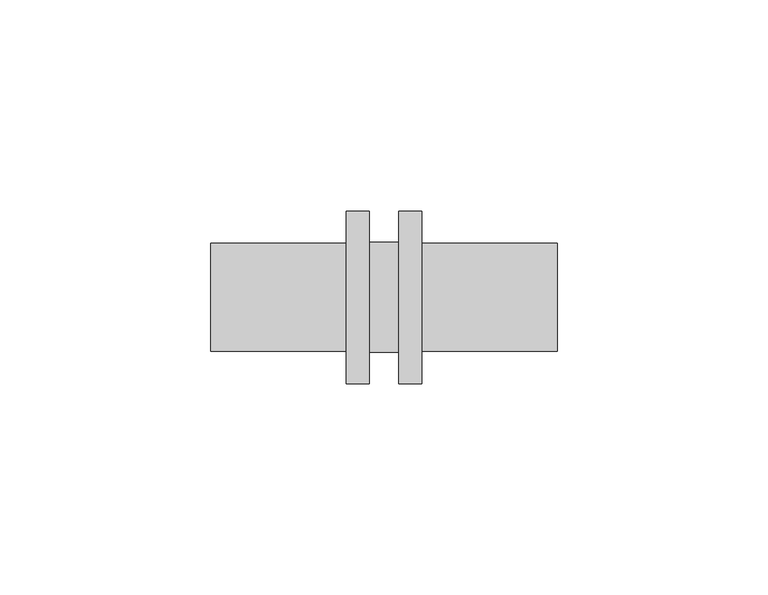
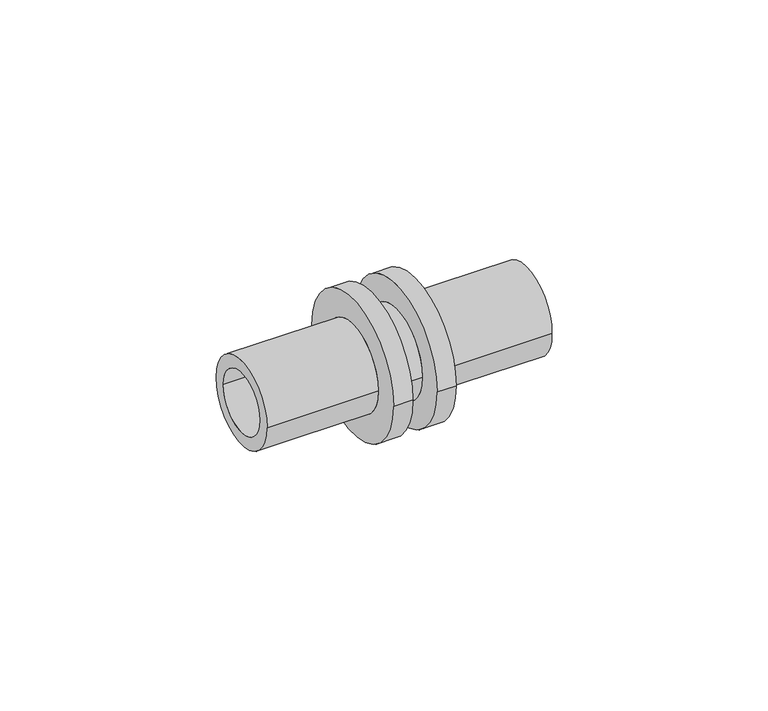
"""IFC4 building model written with IfcOpenShell, lengths in millimetres: pipe fitting geometry, RAUTITAN_Union_PX : RTI PX U DE."""

from ifc_helpers import new_model, si_unit, frame, origin, place, context, project, spatial, polyline, circle_curve, source, transform, mapped, element, save
from ifc_brep_helpers import plane_surface, cylinder_surface, revolved_surface, advanced_brep


def pipe_fitting_1e73dd1d(model_context):
    return source(origin(), model_context, "Body", "AdvancedBrep", [
        advanced_brep(
        [(-41.0, 9.05, 0.0), (-41.0, -9.05, 0.0), (41.0, -9.05, 0.0), (41.0, 9.05, 0.0), (-9.0, 12.75, 0.0), (-9.0, -12.75, 0.0), (-41.0, -12.75, 0.0), (-41.0, 12.75, 0.0), (-3.5, 20.45, 0.0), (-3.5, -20.45, 0.0), (-9.0, -20.45, 0.0), (-9.0, 20.45, 0.0), (3.5, 13.05, 0.0), (3.5, -13.05, 0.0), (-3.5, -13.05, 0.0), (-3.5, 13.05, 0.0), (9.0, 20.45, 0.0), (9.0, -20.45, 0.0), (3.5, -20.45, 0.0), (3.5, 20.45, 0.0), (41.0, 12.75, 0.0), (41.0, -12.75, 0.0), (9.0, -12.75, 0.0), (9.0, 12.75, 0.0)],
        [
            (0, 1, circle_curve(frame((-41.0, 0.0, 0.0), z_axis=(-1.0, 0.0, 0.0), x_axis=(0.0, -1.0, 0.0)), 9.05)),
            (1, 2),
            (2, 3, circle_curve(frame((41.0, 0.0, 0.0), z_axis=(1.0, 0.0, 0.0), x_axis=(0.0, -1.0, 0.0)), 9.05)),
            (3, 0),
            (4, 5, circle_curve(frame((-9.0, 0.0, 0.0), z_axis=(-1.0, 0.0, 0.0), x_axis=(0.0, -1.0, 0.0)), 12.75)),
            (5, 6),
            (6, 7, circle_curve(frame((-41.0, 0.0, 0.0), z_axis=(1.0, 0.0, 0.0), x_axis=(0.0, -1.0, 0.0)), 12.75)),
            (7, 4),
            (8, 9, circle_curve(frame((-3.5, 0.0, 0.0), z_axis=(-1.0, 0.0, 0.0), x_axis=(0.0, -1.0, 0.0)), 20.45)),
            (9, 10),
            (10, 11, circle_curve(frame((-9.0, 0.0, 0.0), z_axis=(1.0, 0.0, 0.0), x_axis=(0.0, -1.0, 0.0)), 20.45)),
            (11, 8),
            (12, 13, circle_curve(frame((3.5, 0.0, 0.0), z_axis=(-1.0, 0.0, 0.0), x_axis=(0.0, -1.0, 0.0)), 13.05)),
            (13, 14),
            (14, 15, circle_curve(frame((-3.5, 0.0, 0.0), z_axis=(1.0, 0.0, 0.0), x_axis=(0.0, -1.0, 0.0)), 13.05)),
            (15, 12),
            (16, 17, circle_curve(frame((9.0, 0.0, 0.0), z_axis=(-1.0, 0.0, 0.0), x_axis=(0.0, -1.0, 0.0)), 20.45)),
            (17, 18),
            (18, 19, circle_curve(frame((3.5, 0.0, 0.0), z_axis=(1.0, 0.0, 0.0), x_axis=(0.0, -1.0, 0.0)), 20.45)),
            (19, 16),
            (20, 21, circle_curve(frame((41.0, 0.0, 0.0), z_axis=(-1.0, 0.0, 0.0), x_axis=(0.0, -1.0, 0.0)), 12.75)),
            (21, 22),
            (22, 23, circle_curve(frame((9.0, 0.0, 0.0), z_axis=(1.0, 0.0, 0.0), x_axis=(0.0, -1.0, 0.0)), 12.75)),
            (23, 20),
            (1, 0, circle_curve(frame((-41.0, 0.0, 0.0), z_axis=(-1.0, 0.0, 0.0), x_axis=(0.0, 1.0, 0.0)), 9.05)),
            (3, 2, circle_curve(frame((41.0, 0.0, 0.0), z_axis=(1.0, 0.0, 0.0), x_axis=(0.0, 1.0, 0.0)), 9.05)),
            (6, 7, circle_curve(frame((-41.0, 0.0, 0.0), z_axis=(-1.0, 0.0, 0.0), x_axis=(0.0, 1.0, 0.0)), 12.75)),
            (5, 4, circle_curve(frame((-9.0, 0.0, 0.0), z_axis=(-1.0, 0.0, 0.0), x_axis=(0.0, 1.0, 0.0)), 12.75)),
            (10, 11, circle_curve(frame((-9.0, 0.0, 0.0), z_axis=(-1.0, 0.0, 0.0), x_axis=(0.0, 1.0, 0.0)), 20.45)),
            (9, 8, circle_curve(frame((-3.5, 0.0, 0.0), z_axis=(-1.0, 0.0, 0.0), x_axis=(0.0, 1.0, 0.0)), 20.45)),
            (14, 15, circle_curve(frame((-3.5, 0.0, 0.0), z_axis=(-1.0, 0.0, 0.0), x_axis=(0.0, 1.0, 0.0)), 13.05)),
            (13, 12, circle_curve(frame((3.5, 0.0, 0.0), z_axis=(-1.0, 0.0, 0.0), x_axis=(0.0, 1.0, 0.0)), 13.05)),
            (18, 19, circle_curve(frame((3.5, 0.0, 0.0), z_axis=(-1.0, 0.0, 0.0), x_axis=(0.0, 1.0, 0.0)), 20.45)),
            (17, 16, circle_curve(frame((9.0, 0.0, 0.0), z_axis=(-1.0, 0.0, 0.0), x_axis=(0.0, 1.0, 0.0)), 20.45)),
            (22, 23, circle_curve(frame((9.0, 0.0, 0.0), z_axis=(-1.0, 0.0, 0.0), x_axis=(0.0, 1.0, 0.0)), 12.75)),
            (21, 20, circle_curve(frame((41.0, 0.0, 0.0), z_axis=(-1.0, 0.0, 0.0), x_axis=(0.0, 1.0, 0.0)), 12.75)),
        ],
        [
            revolved_surface(polyline([(41.0, -9.05, 0.0), (-41.0, -9.05, 0.0)]), (0.0, 0.0, 0.0), (1.0, 0.0, 0.0)),
            cylinder_surface(frame((0.0, 0.0, 0.0), z_axis=(1.0, 0.0, 0.0), x_axis=(0.0, -1.0, 0.0)), 12.75),
            cylinder_surface(frame((0.0, 0.0, 0.0), z_axis=(1.0, 0.0, 0.0), x_axis=(0.0, -1.0, 0.0)), 20.45),
            cylinder_surface(frame((0.0, 0.0, 0.0), z_axis=(1.0, 0.0, 0.0), x_axis=(0.0, -1.0, 0.0)), 13.05),
            revolved_surface(polyline([(41.0, 9.05, 0.0), (-41.0, 9.05, 0.0)]), (0.0, 0.0, 0.0), (1.0, 0.0, 0.0)),
            plane_surface(frame((-41.0, 0.0, 0.0), z_axis=(-1.0, 0.0, 0.0), x_axis=(0.0, 1.0, 0.0))),
            cylinder_surface(frame((0.0, 0.0, 0.0), z_axis=(1.0, 0.0, 0.0), x_axis=(0.0, 1.0, 0.0)), 12.75),
            plane_surface(frame((-9.0, 0.0, 0.0), z_axis=(-1.0, 0.0, 0.0), x_axis=(0.0, 1.0, 0.0))),
            cylinder_surface(frame((0.0, 0.0, 0.0), z_axis=(1.0, 0.0, 0.0), x_axis=(0.0, 1.0, 0.0)), 20.45),
            plane_surface(frame((-3.5, 0.0, 0.0), z_axis=(1.0, 0.0, 0.0), x_axis=(0.0, 1.0, 0.0))),
            cylinder_surface(frame((0.0, 0.0, 0.0), z_axis=(1.0, 0.0, 0.0), x_axis=(0.0, 1.0, 0.0)), 13.05),
            plane_surface(frame((3.5, 0.0, 0.0), z_axis=(-1.0, 0.0, 0.0), x_axis=(0.0, 1.0, 0.0))),
            plane_surface(frame((9.0, 0.0, 0.0), z_axis=(1.0, 0.0, 0.0), x_axis=(0.0, 1.0, 0.0))),
            plane_surface(frame((41.0, 0.0, 0.0), z_axis=(1.0, 0.0, 0.0), x_axis=(0.0, 1.0, 0.0))),
        ],
        [
            (0, [[1, 2, 3, 4]]),
            (1, [[5, 6, 7, 8]]),
            (2, [[9, 10, 11, 12]]),
            (3, [[13, 14, 15, 16]]),
            (2, [[17, 18, 19, 20]]),
            (1, [[21, 22, 23, 24]]),
            (4, [[25, -4, 26, -2]]),
            (5, [[27, -7], [-25, -1]]),
            (6, [[28, -8, -27, -6]]),
            (7, [[29, -11], [-28, -5]]),
            (8, [[30, -12, -29, -10]]),
            (9, [[-30, -9], [31, -15]]),
            (10, [[32, -16, -31, -14]]),
            (11, [[33, -19], [-32, -13]]),
            (8, [[34, -20, -33, -18]]),
            (12, [[-34, -17], [35, -23]]),
            (6, [[36, -24, -35, -22]]),
            (13, [[-36, -21], [-26, -3]]),
        ],
    ),
    ])


if __name__ == "__main__":
    model = new_model("IFC4")
    model_context = context("Model", 3, world=origin())
    ifc_project = project(units=[si_unit("LENGTHUNIT", "METRE", prefix="MILLI")], contexts=[model_context])
    site = spatial("IfcSite", under=ifc_project)
    building = spatial("IfcBuilding", under=site)
    placement = place(None, origin())
    pipe_fitting_shape = pipe_fitting_1e73dd1d(model_context)
    element("IfcPipeFitting", 1, ObjectType="RAUTITAN_Union_PX : RTI PX U DE", at=placement, inside=building, context=model_context, shape_type="MappedRepresentation", body=[
        mapped(pipe_fitting_shape, transform((0.0, 0.0, 0.0), x_axis=(1.0, 0.0, 0.0), y_axis=(0.0, 1.0, 0.0), z_axis=(0.0, 0.0, 1.0))),
    ])
    save(model, "model.ifc")
